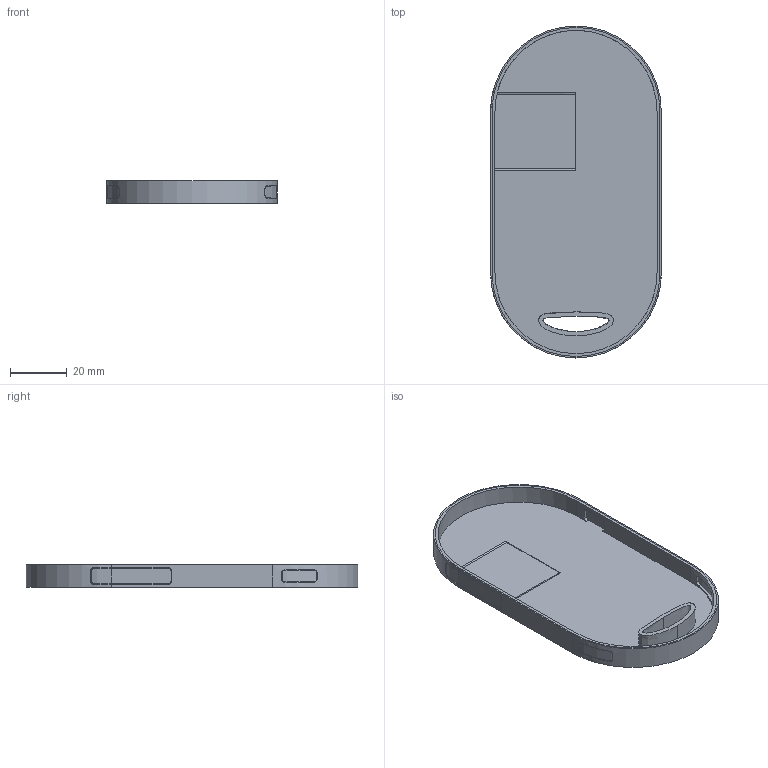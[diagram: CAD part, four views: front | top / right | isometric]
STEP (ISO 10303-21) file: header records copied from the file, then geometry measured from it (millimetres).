
FILE_DESCRIPTION((''),'2;1');
FILE_NAME('ID-GTC-MIDDLE-PRE_PRT','2008-06-30T',('GRA'),(''),'PRO/ENGINEER BY PARAMETRIC TECHNOLOGY CORPORATION, 2006170','PRO/ENGINEER BY PARAMETRIC TECHNOLOGY CORPORATION, 2006170','');
FILE_SCHEMA(('CONFIG_CONTROL_DESIGN'));
Length unit declared in the file: millimetre
Products named in the file (1): ID-GTC-MIDDLE-PRE_PRT
Bounding box: 60 x 116.7 x 8 mm (x, y, z)
Volume: 11994.1 mm3; surface area: 21800.6 mm2
Topology: 1 solids, 3 shells, 90 faces, 233 edges, 144 vertices
Faces by surface type: cylinder 36, plane 28, torus 12, bspline 10, extrusion 4
Entity records: 3664 total; most frequent: CARTESIAN_POINT 1463, ORIENTED_EDGE 450, DIRECTION 440, EDGE_CURVE 233, AXIS2_PLACEMENT_3D 164, VERTEX_POINT 144, VECTOR 112, LINE 108
